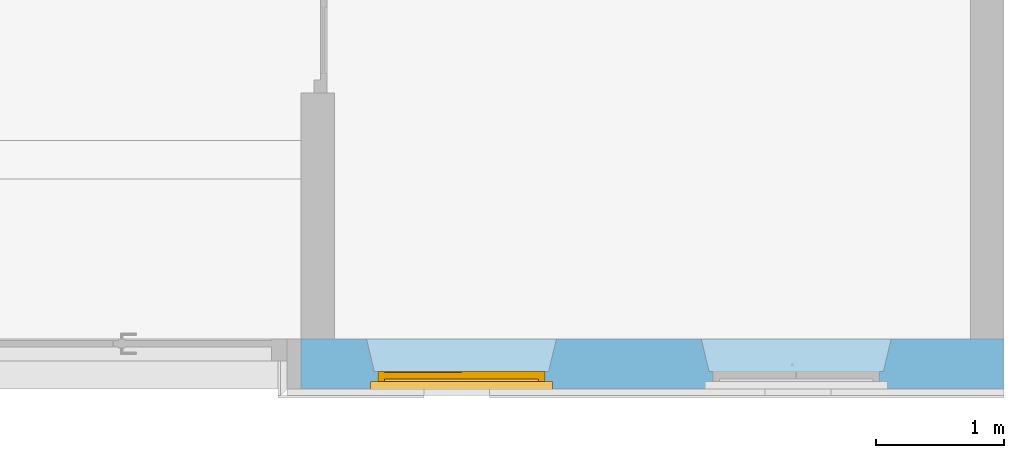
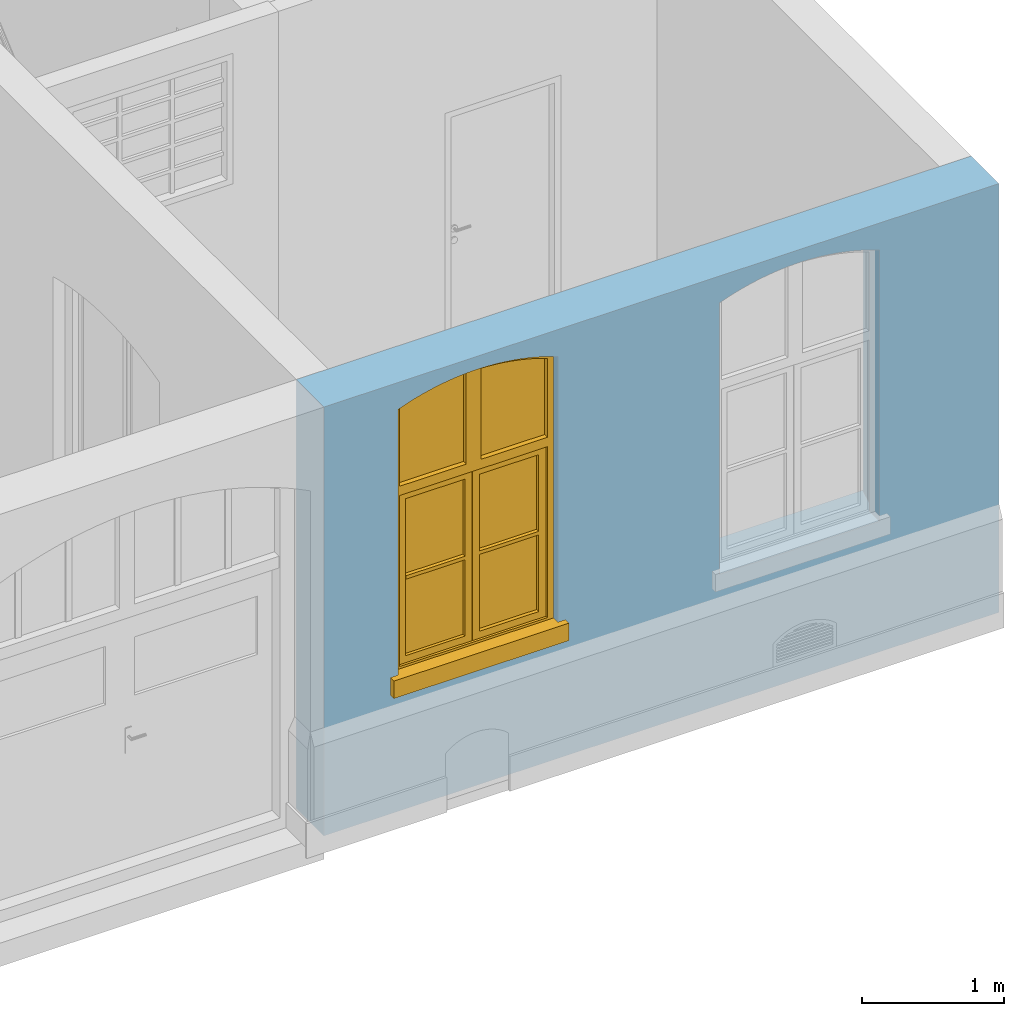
"""IFC4 building model written with IfcOpenShell, lengths in metres."""

from ifc_helpers import new_model, entity, si_unit, converted_unit, derived_unit, frame, frame_2d, origin, origin_with_axes, place, context, subcontext, project, spatial, polyline, rectangle, outline, extrude, closed_shell, open_shell, surface_model, source, transform, mapped, material, layer, layer_set, layer_usage, element, fill, save


model = new_model("IFC4")

# Units and contexts
model_context = context("Model", 3, precision=1e-05, world=origin())
body_context = subcontext(model_context, "Body", "Model", "MODEL_VIEW")
ifc_project = project(units=[si_unit("LENGTHUNIT", "METRE"), si_unit("AREAUNIT", "SQUARE_METRE"), si_unit("VOLUMEUNIT", "CUBIC_METRE"), si_unit("MASSUNIT", "GRAM", prefix="KILO"), converted_unit("PLANEANGLEUNIT", "DEGREE", entity("IfcPlaneAngleMeasure", 0.0174532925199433), si_unit("PLANEANGLEUNIT", "RADIAN"), dimensions=[0, 0, 0, 0, 0, 0, 0]), derived_unit("THERMALTRANSMITTANCEUNIT", [(si_unit("POWERUNIT", "WATT"), 1), (si_unit("THERMODYNAMICTEMPERATUREUNIT", "KELVIN"), -1), (si_unit("LENGTHUNIT", "METRE"), -2)]), derived_unit("VOLUMETRICFLOWRATEUNIT", [(si_unit("LENGTHUNIT", "METRE"), 3), (converted_unit("TIMEUNIT", "hour", entity("IfcTimeMeasure", 3600.0), si_unit("TIMEUNIT", "SECOND"), dimensions=[0, 0, 1, 0, 0, 0, 0]), -1), (si_unit("LENGTHUNIT", "METRE"), -1)])], contexts=[model_context])

# Building, storeys
building_placement = place(None, origin())
building = spatial("IfcBuilding", under=ifc_project, at=building_placement, Name="Bestandsgebäude A - Sporthalle / Wohnhaus (TB 100-499)   ANPASSEN !!!", CompositionType="ELEMENT")
storey_1_placement = place(building_placement, origin())
storey_1 = spatial("IfcBuildingStorey", under=building, at=storey_1_placement, Name="Geb. A Erdgeschoss (TB 200-249)", CompositionType="ELEMENT", Elevation=0.0)
storey_2_placement = place(storey_1_placement, origin())
storey_2 = spatial("IfcBuildingStorey", under=storey_1, at=storey_2_placement, Name="Architektur (TB 200-209)", CompositionType="PARTIAL")

# Wall, openings, window
ifc_material = material(Name="concrete")
ifc_layer = layer(ifc_material, 0.39)
ifc_layer_set = layer_set([ifc_layer])
ifc_layer_usage = layer_usage(ifc_layer_set, "AXIS2", "POSITIVE", 0.0)
wall_placement = place(storey_2_placement, frame((-5.48, 0.0, -0.21), z_axis=(0.0, 0.0, 1.0), x_axis=(1.0, -3.67027395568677e-16, 0.0)))
wall = element("IfcWall", 1, at=wall_placement, inside=storey_2, material=ifc_layer_usage, Name="reinforced - bearing", PredefinedType="USERDEFINED", context=body_context, shape_type="SweptSolid", body=[
    extrude(rectangle(XDim=5.47999999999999, YDim=0.39, at=frame_2d((2.74, 0.195), x_axis=(1.0, 0.0))), origin_with_axes(), (0.0, 0.0, 1.0), 3.68),
])
opening_1_placement = place(wall_placement, frame((3.21, 0.0, 1.12), z_axis=(0.0, 1.0, 0.0), x_axis=(0.0, 0.0, 1.0)))
element("IfcOpeningElement", 2, at=opening_1_placement, cuts=wall, Name="Window opening", PredefinedType="OPENING", context=body_context, shape_type="SweptSolid", body=[
    extrude(outline(polyline([(2.33, 1.3), (2.34531656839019, 1.25842115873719), (2.35961661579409, 1.21648184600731), (2.3728916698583, 1.17420690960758), (2.38513386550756, 1.1316213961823), (2.3963359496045, 1.08875053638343), (2.40649128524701, 1.04561972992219), (2.41559385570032, 1.00225453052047), (2.42363826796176, 0.958680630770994), (2.43061975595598, 0.914923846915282), (2.43653418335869, 0.871010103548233), (2.44137804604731, 0.826965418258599), (2.44514847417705, 0.782815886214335), (2.44784323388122, 0.738587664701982), (2.44946072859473, 0.694306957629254), (2.45, 0.65), (2.44946072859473, 0.605693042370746), (2.44784323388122, 0.561412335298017), (2.44514847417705, 0.517184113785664), (2.44137804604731, 0.4730345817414), (2.43653418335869, 0.428989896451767), (2.43061975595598, 0.385076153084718), (2.42363826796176, 0.341319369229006), (2.41559385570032, 0.297745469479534), (2.40649128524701, 0.254380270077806), (2.3963359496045, 0.211249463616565), (2.38513386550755, 0.168378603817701), (2.3728916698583, 0.125793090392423), (2.35961661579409, 0.0835181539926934), (2.34531656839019, 0.0415788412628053), (2.33, 0.0), (0.0, 0.0), (0.0, 1.3), (2.33, 1.3)])), origin_with_axes(), (0.0, 0.0, 1.0), 0.39),
])
opening_2_placement = place(wall_placement, frame((0.599999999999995, 0.0, 1.12), z_axis=(-2.91504712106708e-16, 1.0, 0.0), x_axis=(0.0, 0.0, 1.0)))
opening_2 = element("IfcOpeningElement", 3, at=opening_2_placement, cuts=wall, Name="Window opening", PredefinedType="OPENING", context=body_context, shape_type="SweptSolid", body=[
    extrude(outline(polyline([(2.33, 1.3), (2.34531656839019, 1.25842115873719), (2.35961661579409, 1.21648184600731), (2.3728916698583, 1.17420690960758), (2.38513386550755, 1.1316213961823), (2.3963359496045, 1.08875053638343), (2.40649128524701, 1.04561972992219), (2.41559385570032, 1.00225453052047), (2.42363826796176, 0.958680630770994), (2.43061975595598, 0.914923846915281), (2.43653418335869, 0.871010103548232), (2.44137804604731, 0.826965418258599), (2.44514847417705, 0.782815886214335), (2.44784323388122, 0.738587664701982), (2.44946072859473, 0.694306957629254), (2.45, 0.649999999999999), (2.44946072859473, 0.605693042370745), (2.44784323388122, 0.561412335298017), (2.44514847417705, 0.517184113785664), (2.44137804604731, 0.473034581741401), (2.43653418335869, 0.428989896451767), (2.43061975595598, 0.385076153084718), (2.42363826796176, 0.341319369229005), (2.41559385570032, 0.297745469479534), (2.40649128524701, 0.254380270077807), (2.3963359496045, 0.211249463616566), (2.38513386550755, 0.1683786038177), (2.3728916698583, 0.125793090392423), (2.35961661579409, 0.0835181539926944), (2.34531656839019, 0.0415788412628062), (2.33, 0.0), (0.0, 0.0), (0.0, 1.3), (2.33, 1.3)])), origin_with_axes(), (0.0, 0.0, 1.0), 0.39),
])
opening_3_placement = place(wall_placement, frame((4.6, 0.39, 1.12), z_axis=(0.0, 0.0, 1.0), x_axis=(-1.0, -3.84077154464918e-17, 0.0)))
element("IfcOpeningElement", 4, at=opening_3_placement, cuts=wall, Name="Wall Niche", ObjectType="Opening", context=body_context, shape_type="SweptSolid", body=[
    extrude(outline(polyline([(0.0, 0.0), (1.48, 0.0), (1.42, 0.24999999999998), (0.0600000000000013, 0.24999999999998), (0.0, 0.0)])), origin_with_axes(), (0.0, 0.0, 1.0), 2.45),
])
opening_4_placement = place(wall_placement, frame((1.99, 0.39, 1.12), z_axis=(0.0, 0.0, 1.0), x_axis=(-1.0, 0.0, 0.0)))
element("IfcOpeningElement", 5, at=opening_4_placement, cuts=wall, Name="Wall Niche", ObjectType="Opening", context=body_context, shape_type="SweptSolid", body=[
    extrude(outline(polyline([(0.0, 0.0), (1.48, 0.0), (1.42, 0.249999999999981), (0.0600000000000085, 0.249999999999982), (0.0, 0.0)])), origin_with_axes(), (0.0, 0.0, 1.0), 2.45),
])
shared_shape = source(origin_with_axes(), body_context, "Body", "SurfaceModel", [
    surface_model("IfcShellBasedSurfaceModel", [(1.36, 0.19, -0.1), (1.36, 0.0800000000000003, -0.1), (1.36, 0.0800000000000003, 0.05), (1.36, 0.19, 0.05), (-0.06, 0.0799999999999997, -0.0999999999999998), (-0.06, 0.19, -0.0999999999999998), (-0.06, 0.19, 0.0500000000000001), (-0.06, 0.0799999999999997, 0.0500000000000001)], [closed_shell([[[0, 1, 2, 3]], [[4, 5, 6, 7]], [[1, 0, 5, 4]], [[2, 1, 4, 7]], [[3, 2, 7, 6]], [[0, 3, 6, 5]]], orient=[[False], [False], [False], [False], [False], [False]])]),
    surface_model("IfcShellBasedSurfaceModel", [(1.258421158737, 0.0, 2.34531656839), (1.3, 0.0, 2.33), (1.3, 0.0, 0.0), (0.0, 0.0, 0.0), (0.0, 0.0, 2.33), (0.041578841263, 0.0, 2.34531656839), (0.0835181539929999, 0.0, 2.359616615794), (0.125793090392, 0.0, 2.372891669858), (0.168378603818, 0.0, 2.385133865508), (0.211249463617, 0.0, 2.396335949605), (0.254380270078, 0.0, 2.406491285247), (0.29774546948, 0.0, 2.4155938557), (0.341319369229, 0.0, 2.423638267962), (0.385076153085, 0.0, 2.430619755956), (0.428989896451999, 0.0, 2.436534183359), (0.473034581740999, 0.0, 2.441378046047), (0.517184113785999, 0.0, 2.445148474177), (0.561412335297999, 0.0, 2.447843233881), (0.605693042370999, 0.0, 2.449460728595), (0.649999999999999, 0.0, 2.45), (0.694306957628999, 0.0, 2.449460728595), (0.738587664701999, 0.0, 2.447843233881), (0.782815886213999, 0.0, 2.445148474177), (0.826965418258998, 0.0, 2.441378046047), (0.871010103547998, 0.0, 2.436534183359), (0.914923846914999, 0.0, 2.430619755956), (0.958680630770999, 0.0, 2.423638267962), (1.00225453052, 0.0, 2.4155938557), (1.045619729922, 0.0, 2.406491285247), (1.088750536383, 0.0, 2.396335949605), (1.131621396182, 0.0, 2.385133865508), (1.174206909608, 0.0, 2.372891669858), (1.216481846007, 0.0, 2.359616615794), (1.25, 0.0, 2.2951341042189), (1.24170887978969, 0.0, 2.2981883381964), (1.20092156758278, 0.0, 2.31209558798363), (1.15980785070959, 0.0, 2.32500599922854), (1.11839208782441, 0.0, 2.33691192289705), (1.07669881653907, 0.0, 2.3478063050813), (1.03475273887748, 0.0, 2.35768269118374), (0.992578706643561, 0.0, 2.36653522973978), (0.950201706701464, 0.0, 2.37435867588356), (0.907646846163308, 0.0, 2.38114839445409), (0.86493933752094, 0.0, 2.38690036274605), (0.822104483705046, 0.0, 2.39161117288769), (0.779167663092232, 0.0, 2.39527803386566), (0.736154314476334, 0.0, 2.39789877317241), (0.693089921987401, 0.0, 2.3994718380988), (0.649999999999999, 0.0, 2.39999629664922), (0.606910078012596, 0.0, 2.3994718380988), (0.563845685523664, 0.0, 2.39789877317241), (0.520832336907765, 0.0, 2.39527803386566), (0.477895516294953, 0.0, 2.39161117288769), (0.435060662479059, 0.0, 2.38690036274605), (0.392353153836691, 0.0, 2.38114839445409), (0.349798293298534, 0.0, 2.37435867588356), (0.307421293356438, 0.0, 2.36653522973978), (0.265247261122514, 0.0, 2.35768269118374), (0.223301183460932, 0.0, 2.3478063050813), (0.181607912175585, 0.0, 2.33691192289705), (0.140192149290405, 0.0, 2.32500599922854), (0.0990784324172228, 0.0, 2.31209558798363), (0.0582911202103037, 0.0, 2.2981883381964), (0.0499999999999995, 0.0, 2.2951341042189), (0.0499999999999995, 0.0, 0.07), (1.25, 0.0, 0.07), (1.3, 0.0799999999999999, 2.33), (1.258421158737, 0.0799999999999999, 2.34531656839), (1.216481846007, 0.0799999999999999, 2.359616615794), (1.174206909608, 0.0799999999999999, 2.372891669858), (1.131621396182, 0.0799999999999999, 2.385133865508), (1.088750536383, 0.0799999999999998, 2.396335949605), (1.045619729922, 0.0799999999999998, 2.406491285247), (1.00225453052, 0.0799999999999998, 2.4155938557), (0.958680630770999, 0.0799999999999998, 2.423638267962), (0.914923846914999, 0.0799999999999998, 2.430619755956), (0.871010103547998, 0.0799999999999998, 2.436534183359), (0.826965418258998, 0.0799999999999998, 2.441378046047), (0.782815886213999, 0.0799999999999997, 2.445148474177), (0.738587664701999, 0.0799999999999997, 2.447843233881), (0.694306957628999, 0.0799999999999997, 2.449460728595), (0.649999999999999, 0.0799999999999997, 2.45), (0.605693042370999, 0.0799999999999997, 2.449460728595), (0.561412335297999, 0.0799999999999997, 2.447843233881), (0.517184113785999, 0.0799999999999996, 2.445148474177), (0.473034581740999, 0.0799999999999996, 2.441378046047), (0.428989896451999, 0.0799999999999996, 2.436534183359), (0.385076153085, 0.0799999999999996, 2.430619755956), (0.341319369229, 0.0799999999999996, 2.423638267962), (0.29774546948, 0.0799999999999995, 2.4155938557), (0.254380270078, 0.0799999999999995, 2.406491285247), (0.211249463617, 0.0799999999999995, 2.396335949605), (0.168378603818, 0.0799999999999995, 2.385133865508), (0.125793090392, 0.0799999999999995, 2.372891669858), (0.0835181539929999, 0.0799999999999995, 2.359616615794), (0.041578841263, 0.0799999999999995, 2.34531656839), (0.0, 0.0799999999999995, 2.33), (0.0, 0.0799999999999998, 0.0), (1.3, 0.0800000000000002, 0.0), (1.24170887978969, 0.0799999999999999, 2.2981883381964), (1.25, 0.0799999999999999, 2.2951341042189), (1.25, 0.0800000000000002, 0.07), (0.0499999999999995, 0.0799999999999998, 0.07), (0.0499999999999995, 0.0799999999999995, 2.2951341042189), (0.0582911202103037, 0.0799999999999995, 2.2981883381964), (0.0990784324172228, 0.0799999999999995, 2.31209558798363), (0.140192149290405, 0.0799999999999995, 2.32500599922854), (0.181607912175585, 0.0799999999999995, 2.33691192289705), (0.223301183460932, 0.0799999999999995, 2.3478063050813), (0.265247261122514, 0.0799999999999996, 2.35768269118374), (0.307421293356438, 0.0799999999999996, 2.36653522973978), (0.349798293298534, 0.0799999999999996, 2.37435867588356), (0.392353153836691, 0.0799999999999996, 2.38114839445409), (0.435060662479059, 0.0799999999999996, 2.38690036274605), (0.477895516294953, 0.0799999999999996, 2.39161117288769), (0.520832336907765, 0.0799999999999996, 2.39527803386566), (0.563845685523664, 0.0799999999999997, 2.39789877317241), (0.606910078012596, 0.0799999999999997, 2.3994718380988), (0.649999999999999, 0.0799999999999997, 2.39999629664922), (0.693089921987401, 0.0799999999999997, 2.3994718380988), (0.736154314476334, 0.0799999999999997, 2.39789877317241), (0.779167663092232, 0.0799999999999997, 2.39527803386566), (0.822104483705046, 0.0799999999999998, 2.39161117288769), (0.86493933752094, 0.0799999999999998, 2.38690036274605), (0.907646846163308, 0.0799999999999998, 2.38114839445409), (0.950201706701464, 0.0799999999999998, 2.37435867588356), (0.992578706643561, 0.0799999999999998, 2.36653522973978), (1.03475273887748, 0.0799999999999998, 2.35768269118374), (1.07669881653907, 0.0799999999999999, 2.3478063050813), (1.11839208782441, 0.0799999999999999, 2.33691192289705), (1.15980785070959, 0.0799999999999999, 2.32500599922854), (1.20092156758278, 0.0799999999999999, 2.31209558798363)], [closed_shell([[[0, 1, 2, 3, 4, 5, 6, 7, 8, 9, 10, 11, 12, 13, 14, 15, 16, 17, 18, 19, 20, 21, 22, 23, 24, 25, 26, 27, 28, 29, 30, 31, 32], [33, 34, 35, 36, 37, 38, 39, 40, 41, 42, 43, 44, 45, 46, 47, 48, 49, 50, 51, 52, 53, 54, 55, 56, 57, 58, 59, 60, 61, 62, 63, 64, 65]], [[66, 67, 68, 69, 70, 71, 72, 73, 74, 75, 76, 77, 78, 79, 80, 81, 82, 83, 84, 85, 86, 87, 88, 89, 90, 91, 92, 93, 94, 95, 96, 97, 98], [99, 100, 101, 102, 103, 104, 105, 106, 107, 108, 109, 110, 111, 112, 113, 114, 115, 116, 117, 118, 119, 120, 121, 122, 123, 124, 125, 126, 127, 128, 129, 130, 131]], [[1, 0, 67, 66]], [[2, 1, 66, 98]], [[3, 2, 98, 97]], [[4, 3, 97, 96]], [[5, 4, 96, 95]], [[6, 5, 95, 94]], [[7, 6, 94, 93]], [[8, 7, 93, 92]], [[9, 8, 92, 91]], [[10, 9, 91, 90]], [[11, 10, 90, 89]], [[12, 11, 89, 88]], [[13, 12, 88, 87]], [[14, 13, 87, 86]], [[15, 14, 86, 85]], [[16, 15, 85, 84]], [[17, 16, 84, 83]], [[18, 17, 83, 82]], [[19, 18, 82, 81]], [[20, 19, 81, 80]], [[21, 20, 80, 79]], [[22, 21, 79, 78]], [[23, 22, 78, 77]], [[24, 23, 77, 76]], [[25, 24, 76, 75]], [[26, 25, 75, 74]], [[27, 26, 74, 73]], [[28, 27, 73, 72]], [[29, 28, 72, 71]], [[30, 29, 71, 70]], [[31, 30, 70, 69]], [[32, 31, 69, 68]], [[0, 32, 68, 67]], [[33, 100, 99, 34]], [[65, 101, 100, 33]], [[64, 102, 101, 65]], [[63, 103, 102, 64]], [[62, 104, 103, 63]], [[61, 105, 104, 62]], [[60, 106, 105, 61]], [[59, 107, 106, 60]], [[58, 108, 107, 59]], [[57, 109, 108, 58]], [[56, 110, 109, 57]], [[55, 111, 110, 56]], [[54, 112, 111, 55]], [[53, 113, 112, 54]], [[52, 114, 113, 53]], [[51, 115, 114, 52]], [[50, 116, 115, 51]], [[49, 117, 116, 50]], [[48, 118, 117, 49]], [[47, 119, 118, 48]], [[46, 120, 119, 47]], [[45, 121, 120, 46]], [[44, 122, 121, 45]], [[43, 123, 122, 44]], [[42, 124, 123, 43]], [[41, 125, 124, 42]], [[40, 126, 125, 41]], [[39, 127, 126, 40]], [[38, 128, 127, 39]], [[37, 129, 128, 38]], [[36, 130, 129, 37]], [[35, 131, 130, 36]], [[34, 99, 131, 35]]], orient=[[False, False], [False, False], [False], [False], [False], [False], [False], [False], [False], [False], [False], [False], [False], [False], [False], [False], [False], [False], [False], [False], [False], [False], [False], [False], [False], [False], [False], [False], [False], [False], [False], [False], [False], [False], [False], [False], [False], [False], [False], [False], [False], [False], [False], [False], [False], [False], [False], [False], [False], [False], [False], [False], [False], [False], [False], [False], [False], [False], [False], [False], [False], [False], [False], [False], [False], [False], [False], [False]])]),
    surface_model("IfcShellBasedSurfaceModel", [(1.25, 0.0, 1.61701834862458), (1.25, 0.0, 1.53701834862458), (0.0499999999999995, 0.0, 1.53701834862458), (0.0499999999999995, 0.0, 1.61701834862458), (1.25, 0.08, 1.53701834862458), (1.25, 0.08, 1.61701834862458), (0.0499999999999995, 0.0799999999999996, 1.61701834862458), (0.0499999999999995, 0.0799999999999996, 1.53701834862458)], [closed_shell([[[0, 1, 2, 3]], [[4, 5, 6, 7]], [[1, 0, 5, 4]], [[2, 1, 4, 7]], [[3, 2, 7, 6]], [[0, 3, 6, 5]]], orient=[[False], [False], [False], [False], [False], [False]])]),
    surface_model("IfcShellBasedSurfaceModel", [(0.709999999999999, 0.0, 2.39885414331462), (0.709999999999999, 0.0, 1.61701834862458), (0.589999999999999, 0.0, 1.61701834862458), (0.589999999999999, 0.0, 2.39885414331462), (0.606910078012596, 0.0, 2.3994718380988), (0.649999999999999, 0.0, 2.39999629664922), (0.693089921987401, 0.0, 2.3994718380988), (0.709999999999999, 0.0799999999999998, 1.61701834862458), (0.709999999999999, 0.0799999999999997, 2.39885414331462), (0.693089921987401, 0.0799999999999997, 2.3994718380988), (0.649999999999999, 0.0799999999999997, 2.39999629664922), (0.606910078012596, 0.0799999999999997, 2.3994718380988), (0.589999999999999, 0.0799999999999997, 2.39885414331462), (0.589999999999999, 0.0799999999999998, 1.61701834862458)], [closed_shell([[[0, 1, 2, 3, 4, 5, 6]], [[7, 8, 9, 10, 11, 12, 13]], [[1, 0, 8, 7]], [[2, 1, 7, 13]], [[3, 2, 13, 12]], [[4, 3, 12, 11]], [[5, 4, 11, 10]], [[6, 5, 10, 9]], [[0, 6, 9, 8]]], orient=[[False], [False], [False], [False], [False], [False], [False], [False], [False]])]),
    surface_model("IfcShellBasedSurfaceModel", [(0.650499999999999, 0.00999999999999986, 0.07), (0.650499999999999, 0.00999999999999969, 1.53701834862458), (1.25, 0.00999999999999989, 1.53701834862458), (1.25, 0.0100000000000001, 0.07), (0.710499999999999, 0.00999999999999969, 1.47701834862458), (0.710499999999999, 0.00999999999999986, 0.13), (1.19, 0.0100000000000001, 0.13), (1.19, 0.00999999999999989, 1.47701834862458), (0.650499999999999, 0.0599999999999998, 1.53701834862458), (0.650499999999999, 0.0599999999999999, 0.07), (1.25, 0.0600000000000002, 0.07), (1.25, 0.06, 1.53701834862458), (0.710499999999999, 0.06, 0.13), (0.710499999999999, 0.0599999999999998, 1.47701834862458), (1.19, 0.06, 1.47701834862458), (1.19, 0.0600000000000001, 0.13)], [closed_shell([[[0, 1, 2, 3], [4, 5, 6, 7]], [[8, 9, 10, 11], [12, 13, 14, 15]], [[1, 0, 9, 8]], [[2, 1, 8, 11]], [[3, 2, 11, 10]], [[0, 3, 10, 9]], [[4, 13, 12, 5]], [[7, 14, 13, 4]], [[6, 15, 14, 7]], [[5, 12, 15, 6]]], orient=[[False, False], [False, False], [False], [False], [False], [False], [False], [False], [False], [False]])]),
    surface_model("IfcShellBasedSurfaceModel", [(0.692999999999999, 0.0099999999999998, 0.775), (0.667999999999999, 0.0099999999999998, 0.775), (0.667999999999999, 0.0099999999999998, 0.735), (0.692999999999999, 0.0099999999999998, 0.735), (0.692999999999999, 0.0, 0.735), (0.667999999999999, 0.0, 0.735), (0.667999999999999, 0.0, 0.775), (0.692999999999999, 0.0, 0.775)], [closed_shell([[[0, 1, 2, 3]], [[4, 5, 6, 7]], [[3, 4, 7, 0]], [[2, 5, 4, 3]], [[1, 6, 5, 2]], [[0, 7, 6, 1]]], orient=[[False], [False], [False], [False], [False], [False]])]),
    surface_model("IfcShellBasedSurfaceModel", [(0.670499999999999, 0.0, 0.755), (0.671839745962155, 0.0, 0.75), (0.675499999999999, 0.0, 0.746339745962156), (0.680499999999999, 0.0, 0.745), (0.685499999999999, 0.0, 0.746339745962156), (0.689160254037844, 0.0, 0.75), (0.690499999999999, 0.0, 0.755), (0.689160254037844, 0.0, 0.76), (0.685499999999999, 0.0, 0.763660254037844), (0.680499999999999, 0.0, 0.765), (0.675499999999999, 0.0, 0.763660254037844), (0.671839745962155, 0.0, 0.76), (0.671839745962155, -0.0450000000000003, 0.76), (0.670499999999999, -0.0400000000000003, 0.755), (0.675499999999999, -0.0486602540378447, 0.763660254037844), (0.680499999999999, -0.0500000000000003, 0.765), (0.685499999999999, -0.0486602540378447, 0.763660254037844), (0.689160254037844, -0.0450000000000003, 0.76), (0.690499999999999, -0.0400000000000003, 0.755), (0.689160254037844, -0.0350000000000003, 0.75), (0.685499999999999, -0.0313397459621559, 0.746339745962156), (0.680499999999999, -0.0300000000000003, 0.745), (0.675499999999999, -0.0313397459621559, 0.746339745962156), (0.671839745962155, -0.0350000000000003, 0.75), (0.670499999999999, -0.0400000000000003, 0.64), (0.671839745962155, -0.0450000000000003, 0.64), (0.675499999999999, -0.0486602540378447, 0.64), (0.680499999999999, -0.0500000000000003, 0.64), (0.685499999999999, -0.0486602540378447, 0.64), (0.689160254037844, -0.0450000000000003, 0.64), (0.690499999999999, -0.0400000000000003, 0.64), (0.689160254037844, -0.0350000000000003, 0.64), (0.685499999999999, -0.0313397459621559, 0.64), (0.680499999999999, -0.0300000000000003, 0.64), (0.675499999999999, -0.0313397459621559, 0.64), (0.671839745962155, -0.0350000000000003, 0.64)], [closed_shell([[[0, 1, 2, 3, 4, 5, 6, 7, 8, 9, 10, 11]], [[0, 11, 12, 13]], [[11, 10, 14, 12]], [[10, 9, 15, 14]], [[9, 8, 16, 15]], [[8, 7, 17, 16]], [[7, 6, 18, 17]], [[6, 5, 19, 18]], [[5, 4, 20, 19]], [[4, 3, 21, 20]], [[3, 2, 22, 21]], [[2, 1, 23, 22]], [[1, 0, 13, 23]], [[24, 25, 26, 27, 28, 29, 30, 31, 32, 33, 34, 35]], [[13, 12, 25, 24]], [[12, 14, 26, 25]], [[14, 15, 27, 26]], [[15, 16, 28, 27]], [[16, 17, 29, 28]], [[17, 18, 30, 29]], [[18, 19, 31, 30]], [[19, 20, 32, 31]], [[20, 21, 33, 32]], [[21, 22, 34, 33]], [[22, 23, 35, 34]], [[23, 13, 24, 35]]], orient=[[False], [False], [False], [False], [False], [False], [False], [False], [False], [False], [False], [False], [False], [False], [False], [False], [False], [False], [False], [False], [False], [False], [False], [False], [False], [False]])]),
    surface_model("IfcShellBasedSurfaceModel", [(0.649499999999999, 0.0, 1.53701834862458), (0.649499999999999, 0.0, 0.07), (0.0499999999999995, 0.0, 0.07), (0.0499999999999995, 0.0, 1.53701834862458), (0.589499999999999, 0.0, 0.13), (0.589499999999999, 0.0, 1.47701834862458), (0.11, 0.0, 1.47701834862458), (0.11, 0.0, 0.13), (0.649499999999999, 0.0599999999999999, 0.07), (0.649499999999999, 0.0599999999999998, 1.53701834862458), (0.0499999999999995, 0.0599999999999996, 1.53701834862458), (0.0499999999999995, 0.0599999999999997, 0.07), (0.589499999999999, 0.0599999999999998, 1.47701834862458), (0.589499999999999, 0.0599999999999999, 0.13), (0.11, 0.0599999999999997, 0.13), (0.11, 0.0599999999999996, 1.47701834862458)], [closed_shell([[[0, 1, 2, 3], [4, 5, 6, 7]], [[8, 9, 10, 11], [12, 13, 14, 15]], [[1, 0, 9, 8]], [[2, 1, 8, 11]], [[3, 2, 11, 10]], [[0, 3, 10, 9]], [[4, 13, 12, 5]], [[7, 14, 13, 4]], [[6, 15, 14, 7]], [[5, 12, 15, 6]]], orient=[[False, False], [False, False], [False], [False], [False], [False], [False], [False], [False], [False]])]),
    surface_model("IfcShellBasedSurfaceModel", [(0.589499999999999, 0.0, 0.81850917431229), (0.589499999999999, 0.0, 0.78850917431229), (0.11, 0.0, 0.78850917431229), (0.11, 0.0, 0.81850917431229), (0.589499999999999, 0.0599999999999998, 0.78850917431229), (0.589499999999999, 0.0599999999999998, 0.81850917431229), (0.11, 0.0599999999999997, 0.81850917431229), (0.11, 0.0599999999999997, 0.78850917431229)], [closed_shell([[[0, 1, 2, 3]], [[4, 5, 6, 7]], [[1, 0, 5, 4]], [[2, 1, 4, 7]], [[3, 2, 7, 6]], [[0, 3, 6, 5]]], orient=[[False], [False], [False], [False], [False], [False]])]),
    surface_model("IfcShellBasedSurfaceModel", [(1.19, 0.005, 0.81850917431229), (1.19, 0.005, 0.78850917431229), (0.710499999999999, 0.0049999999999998, 0.78850917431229), (0.710499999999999, 0.0049999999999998, 0.81850917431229), (1.19, 0.0650000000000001, 0.78850917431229), (1.19, 0.0650000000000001, 0.81850917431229), (0.710499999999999, 0.0649999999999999, 0.81850917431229), (0.710499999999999, 0.0649999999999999, 0.78850917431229)], [closed_shell([[[0, 1, 2, 3]], [[4, 5, 6, 7]], [[1, 0, 5, 4]], [[2, 1, 4, 7]], [[3, 2, 7, 6]], [[0, 3, 6, 5]]], orient=[[False], [False], [False], [False], [False], [False]])]),
    surface_model("IfcShellBasedSurfaceModel", [(1.24170887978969, 0.0399999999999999, 2.2981883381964), (1.25, 0.0399999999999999, 2.2951341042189), (1.25, 0.04, 1.61701834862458), (0.709999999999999, 0.0399999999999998, 1.61701834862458), (0.709999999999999, 0.0399999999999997, 2.39885414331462), (0.736154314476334, 0.0399999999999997, 2.39789877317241), (0.779167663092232, 0.0399999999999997, 2.39527803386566), (0.822104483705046, 0.0399999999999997, 2.39161117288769), (0.86493933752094, 0.0399999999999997, 2.38690036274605), (0.907646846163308, 0.0399999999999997, 2.38114839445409), (0.950201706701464, 0.0399999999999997, 2.37435867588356), (0.992578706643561, 0.0399999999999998, 2.36653522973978), (1.03475273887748, 0.0399999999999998, 2.35768269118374), (1.07669881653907, 0.0399999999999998, 2.3478063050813), (1.11839208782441, 0.0399999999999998, 2.33691192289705), (1.15980785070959, 0.0399999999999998, 2.32500599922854), (1.20092156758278, 0.0399999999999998, 2.31209558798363)], [open_shell([[[0, 1, 2, 3, 4, 5, 6, 7, 8, 9, 10, 11, 12, 13, 14, 15, 16]]], orient=[[False]])]),
    surface_model("IfcShellBasedSurfaceModel", [(0.563845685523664, 0.0399999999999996, 2.39789877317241), (0.589999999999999, 0.0399999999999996, 2.39885414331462), (0.589999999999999, 0.0399999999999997, 1.61701834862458), (0.0499999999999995, 0.0399999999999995, 1.61701834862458), (0.0499999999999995, 0.0399999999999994, 2.2951341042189), (0.0582911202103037, 0.0399999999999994, 2.2981883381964), (0.0990784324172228, 0.0399999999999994, 2.31209558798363), (0.140192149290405, 0.0399999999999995, 2.32500599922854), (0.181607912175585, 0.0399999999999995, 2.33691192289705), (0.223301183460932, 0.0399999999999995, 2.3478063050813), (0.265247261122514, 0.0399999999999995, 2.35768269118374), (0.307421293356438, 0.0399999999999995, 2.36653522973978), (0.349798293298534, 0.0399999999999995, 2.37435867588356), (0.392353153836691, 0.0399999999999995, 2.38114839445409), (0.435060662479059, 0.0399999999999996, 2.38690036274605), (0.477895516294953, 0.0399999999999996, 2.39161117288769), (0.520832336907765, 0.0399999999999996, 2.39527803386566)], [open_shell([[[0, 1, 2, 3, 4, 5, 6, 7, 8, 9, 10, 11, 12, 13, 14, 15, 16]]], orient=[[False]])]),
    surface_model("IfcShellBasedSurfaceModel", [(0.589499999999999, 0.0299999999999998, 0.78850917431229), (0.589499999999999, 0.0299999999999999, 0.13), (0.11, 0.0299999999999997, 0.13), (0.11, 0.0299999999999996, 0.78850917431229)], [open_shell([[[0, 1, 2, 3]]], orient=[[False]])]),
    surface_model("IfcShellBasedSurfaceModel", [(0.11, 0.0299999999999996, 0.81850917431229), (0.11, 0.0299999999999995, 1.47701834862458), (0.589499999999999, 0.0299999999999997, 1.47701834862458), (0.589499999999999, 0.0299999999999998, 0.81850917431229)], [open_shell([[[0, 1, 2, 3]]], orient=[[False]])]),
    surface_model("IfcShellBasedSurfaceModel", [(1.19, 0.035, 0.78850917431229), (1.19, 0.0350000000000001, 0.13), (0.710499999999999, 0.0349999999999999, 0.13), (0.710499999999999, 0.0349999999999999, 0.78850917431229)], [open_shell([[[0, 1, 2, 3]]], orient=[[False]])]),
    surface_model("IfcShellBasedSurfaceModel", [(0.710499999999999, 0.0349999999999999, 0.81850917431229), (0.710499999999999, 0.0349999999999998, 1.47701834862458), (1.19, 0.0349999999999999, 1.47701834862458), (1.19, 0.035, 0.81850917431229)], [open_shell([[[0, 1, 2, 3]]], orient=[[False]])]),
    surface_model("IfcShellBasedSurfaceModel", [(0.11, 0.03, 0.13), (0.589499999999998, 0.0300000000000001, 0.80350917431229), (0.11, 0.0299999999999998, 1.47701834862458)], [open_shell([[[0, 1, 2]]], orient=[[False]])]),
])
window_placement = place(opening_2_placement, frame((0.0, 1.3, 0.14), z_axis=(1.0, 0.0, 0.0), x_axis=(0.0, -1.0, 2.91504712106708e-16)))
window = element("IfcWindow", 6, at=window_placement, inside=storey_2, Name="Window", OverallHeight=2.45, OverallWidth=1.3, PartitioningType="USERDEFINED", PredefinedType="WINDOW", context=body_context, shape_type="MappedRepresentation", body=[
    mapped(shared_shape, transform((0.0, 0.0, 0.0), x_axis=(1.0, 0.0, 0.0), y_axis=(0.0, 1.0, 0.0), z_axis=(0.0, 0.0, 1.0), scale=1.0)),
])
fill(opening_2, window)

save(model, "model.ifc")
